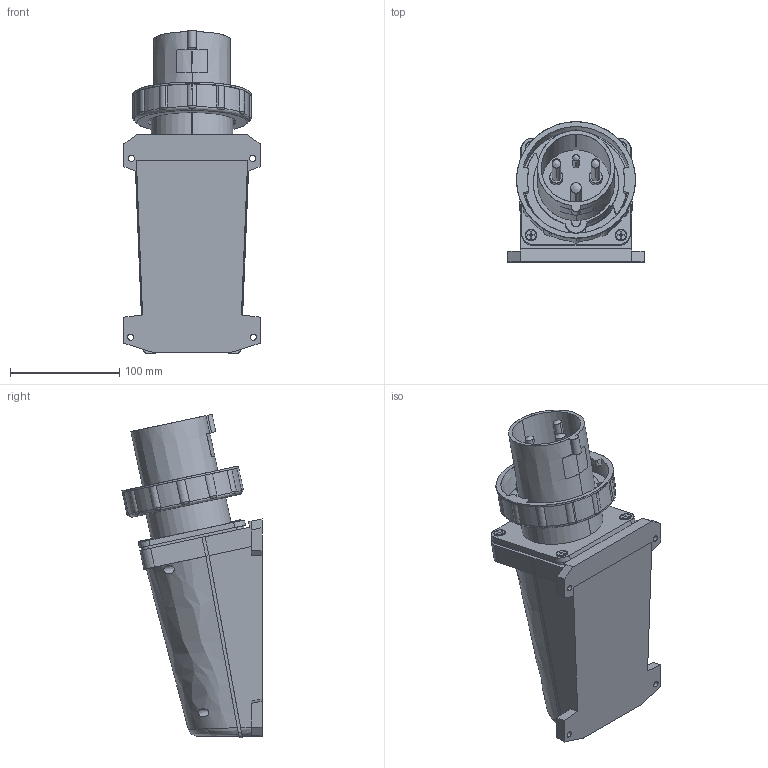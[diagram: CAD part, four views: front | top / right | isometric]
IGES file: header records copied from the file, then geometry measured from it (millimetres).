
Start section: SolidWorks IGES file using analytic representation for surfaces
Global section: file name: D:\X - Arquivos\PROEX\Empresas\P11 - METALTEX\01 - Produtos\IGES\4ª remessa\6ª etapa\TLM63632.IGS; native system: SolidWorks 2012; preprocessor: SolidWorks 2012; author: Usuario; date: 180620.132718; units: millimetre
Bounding box: 125 x 128.53 x 296.5 mm (x, y, z)
Surface area: 168730.7 mm2 (no closed solid volume)
Topology: 0 solids, 0 shells, 595 faces, 7109 edges, 7109 vertices
Faces by surface type: bspline 461, revolution 134
